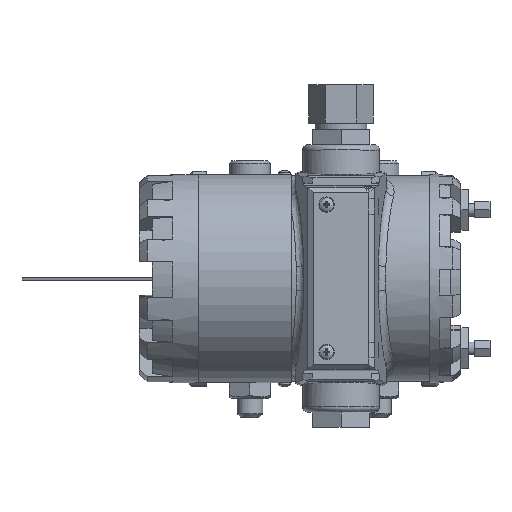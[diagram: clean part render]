
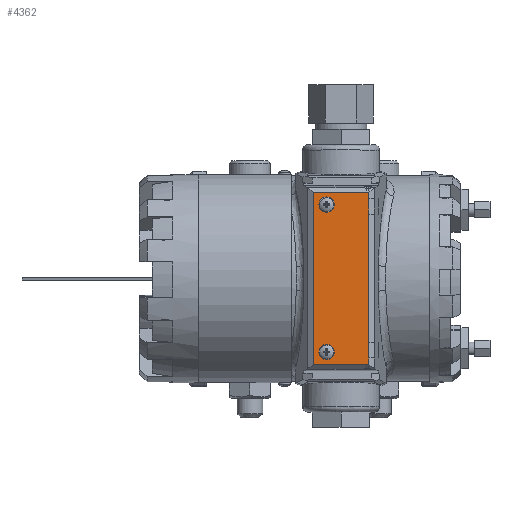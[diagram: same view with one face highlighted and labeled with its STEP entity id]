
A CAD part, top view. The second image highlights one B-rep face of the part: STEP entity #4362.
In plain terms, the highlighted planar face has unit normal (0, 0, 1).
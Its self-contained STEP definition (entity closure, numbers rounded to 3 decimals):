
#4362=ADVANCED_FACE('',(#17651,#17653,#17655),#17657,.T.);
#17651=FACE_BOUND('',#17652,.T.);
#17652=EDGE_LOOP('',(#29774,#29775,#29776,#29777,#29778,#29779,#29780,#29781,#29782,
#29783,#29784,#29785));
#17653=FACE_BOUND('',#17654,.T.);
#17654=EDGE_LOOP('',(#29786));
#17655=FACE_BOUND('',#17656,.T.);
#17656=EDGE_LOOP('',(#29787));
#17657=PLANE('',#17658);
#17658=AXIS2_PLACEMENT_3D('',#17659,#17660,#17661);
#17659=CARTESIAN_POINT('',(0.,0.,142.182));
#17660=DIRECTION('',(0.,0.,1.));
#17661=DIRECTION('',(1.,0.,0.));
#29774=ORIENTED_EDGE('',*,*,#35161,.T.);
#29775=ORIENTED_EDGE('',*,*,#35436,.T.);
#29776=ORIENTED_EDGE('',*,*,#35158,.F.);
#29777=ORIENTED_EDGE('',*,*,#35437,.T.);
#29778=ORIENTED_EDGE('',*,*,#35155,.T.);
#29779=ORIENTED_EDGE('',*,*,#35438,.T.);
#29780=ORIENTED_EDGE('',*,*,#35152,.F.);
#29781=ORIENTED_EDGE('',*,*,#35119,.T.);
#29782=ORIENTED_EDGE('',*,*,#35118,.T.);
#29783=ORIENTED_EDGE('',*,*,#35111,.T.);
#29784=ORIENTED_EDGE('',*,*,#35163,.F.);
#29785=ORIENTED_EDGE('',*,*,#35439,.T.);
#29786=ORIENTED_EDGE('',*,*,#35440,.T.);
#29787=ORIENTED_EDGE('',*,*,#35441,.T.);
#35111=EDGE_CURVE('',#39366,#39367,#39368,.F.);
#35118=EDGE_CURVE('',#39376,#39366,#39378,.T.);
#35119=EDGE_CURVE('',#39379,#39376,#39380,.F.);
#35152=EDGE_CURVE('',#39379,#39432,#39434,.T.);
#35155=EDGE_CURVE('',#39435,#39437,#39439,.F.);
#35158=EDGE_CURVE('',#39442,#39440,#39444,.T.);
#35161=EDGE_CURVE('',#39445,#39447,#39449,.F.);
#35163=EDGE_CURVE('',#39450,#39367,#39452,.T.);
#35436=EDGE_CURVE('',#39447,#39440,#39848,.T.);
#35437=EDGE_CURVE('',#39442,#39435,#39849,.T.);
#35438=EDGE_CURVE('',#39437,#39432,#39850,.T.);
#35439=EDGE_CURVE('',#39450,#39445,#39851,.T.);
#35440=EDGE_CURVE('',#39852,#39852,#39853,.F.);
#35441=EDGE_CURVE('',#39854,#39854,#39855,.F.);
#39366=VERTEX_POINT('',#53149);
#39367=VERTEX_POINT('',#53150);
#39368=LINE('',#53151,#53152);
#39376=VERTEX_POINT('',#53173);
#39378=LINE('',#53177,#53178);
#39379=VERTEX_POINT('',#53180);
#39380=LINE('',#53181,#53182);
#39432=VERTEX_POINT('',#53307);
#39434=LINE('',#53311,#53312);
#39435=VERTEX_POINT('',#53314);
#39437=VERTEX_POINT('',#53318);
#39439=LINE('',#53322,#53323);
#39440=VERTEX_POINT('',#53325);
#39442=VERTEX_POINT('',#53329);
#39444=LINE('',#53333,#53334);
#39445=VERTEX_POINT('',#53336);
#39447=VERTEX_POINT('',#53340);
#39449=LINE('',#53344,#53345);
#39450=VERTEX_POINT('',#53347);
#39452=LINE('',#53351,#53352);
#39848=LINE('',#54577,#54578);
#39849=LINE('',#54580,#54581);
#39850=LINE('',#54583,#54584);
#39851=LINE('',#54586,#54587);
#39852=VERTEX_POINT('',#54589);
#39853=CIRCLE('',#54590,3.);
#39854=VERTEX_POINT('',#54594);
#39855=CIRCLE('',#54595,3.);
#53149=CARTESIAN_POINT('',(-0.267,-33.589,142.182));
#53150=CARTESIAN_POINT('',(21.267,-33.589,142.182));
#53151=CARTESIAN_POINT('',(21.267,-33.589,142.182));
#53152=VECTOR('',#53153,1.);
#53153=DIRECTION('',(-1.,0.,0.));
#53173=CARTESIAN_POINT('',(-0.267,33.589,142.182));
#53177=CARTESIAN_POINT('',(-0.267,33.589,142.182));
#53178=VECTOR('',#53179,1.);
#53179=DIRECTION('',(0.,-1.,0.));
#53180=CARTESIAN_POINT('',(21.267,33.589,142.182));
#53181=CARTESIAN_POINT('',(-0.267,33.589,142.182));
#53182=VECTOR('',#53183,1.);
#53183=DIRECTION('',(1.,0.,0.));
#53307=CARTESIAN_POINT('',(21.267,31.,142.182));
#53311=CARTESIAN_POINT('',(21.267,33.589,142.182));
#53312=VECTOR('',#53313,1.);
#53313=DIRECTION('',(0.,-1.,0.));
#53314=CARTESIAN_POINT('',(21.267,25.,142.182));
#53318=CARTESIAN_POINT('',(21.267,31.,142.182));
#53322=CARTESIAN_POINT('',(21.267,31.,142.182));
#53323=VECTOR('',#53324,1.);
#53324=DIRECTION('',(0.,-1.,0.));
#53325=CARTESIAN_POINT('',(21.267,-25.,142.182));
#53329=CARTESIAN_POINT('',(21.267,25.,142.182));
#53333=CARTESIAN_POINT('',(21.267,25.,142.182));
#53334=VECTOR('',#53335,1.);
#53335=DIRECTION('',(0.,-1.,0.));
#53336=CARTESIAN_POINT('',(21.267,-31.,142.182));
#53340=CARTESIAN_POINT('',(21.267,-25.,142.182));
#53344=CARTESIAN_POINT('',(21.267,-25.,142.182));
#53345=VECTOR('',#53346,1.);
#53346=DIRECTION('',(0.,-1.,0.));
#53347=CARTESIAN_POINT('',(21.267,-31.,142.182));
#53351=CARTESIAN_POINT('',(21.267,-31.,142.182));
#53352=VECTOR('',#53353,1.);
#53353=DIRECTION('',(0.,-1.,0.));
#54577=CARTESIAN_POINT('',(21.267,-25.,142.182));
#54578=VECTOR('',#54579,1.);
#54579=DIRECTION('',(-1.,0.,0.));
#54580=CARTESIAN_POINT('',(21.267,25.,142.182));
#54581=VECTOR('',#54582,1.);
#54582=DIRECTION('',(1.,0.,0.));
#54583=CARTESIAN_POINT('',(21.267,31.,142.182));
#54584=VECTOR('',#54585,1.);
#54585=DIRECTION('',(-1.,0.,0.));
#54586=CARTESIAN_POINT('',(21.267,-31.,142.182));
#54587=VECTOR('',#54588,1.);
#54588=DIRECTION('',(1.,0.,0.));
#54589=CARTESIAN_POINT('',(1.88,-28.689,142.182));
#54590=AXIS2_PLACEMENT_3D('',#54591,#54592,#54593);
#54591=CARTESIAN_POINT('',(4.88,-28.689,142.182));
#54592=DIRECTION('',(0.,0.,1.));
#54593=DIRECTION('',(-1.,0.,0.));
#54594=CARTESIAN_POINT('',(1.88,28.689,142.182));
#54595=AXIS2_PLACEMENT_3D('',#54596,#54597,#54598);
#54596=CARTESIAN_POINT('',(4.88,28.689,142.182));
#54597=DIRECTION('',(0.,0.,1.));
#54598=DIRECTION('',(-1.,0.,0.));
